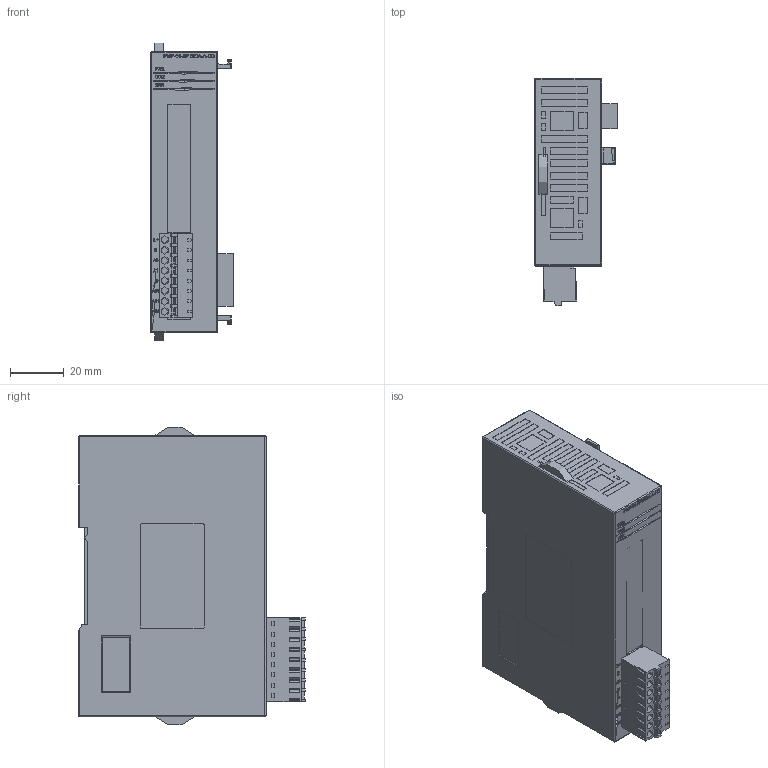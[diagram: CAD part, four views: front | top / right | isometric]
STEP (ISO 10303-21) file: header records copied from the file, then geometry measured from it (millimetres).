
FILE_DESCRIPTION(('STEP AP242'), '1');
FILE_NAME('PMP-01-2PT2DA-A-ED', '', ('UNSPECIFIED'), ('UNSPECIFIED'), 'C3D Converter', 'C3D Toolkit', '');
FILE_SCHEMA(('AP242_MANAGED_MODEL_BASED_3D_ENGINEERING_MIM_LF { 1 0 10303 442 1 1 4 }'));
Length unit declared in the file: millimetre
Products named in the file (1): PMP-01-2PT2DA-A-ED
Bounding box: 30.8 x 84.71 x 110.91 mm (x, y, z)
Surface area: 29154 mm2
Topology: 18 solids, 35 shells, 1358 faces, 3630 edges, 2422 vertices
Faces by surface type: plane 981, bspline 160, extrusion 131, cylinder 86
Full cylindrical faces by diameter (mm): 3 x8
Entity records: 67453 total; most frequent: CARTESIAN_POINT 24135, ORIENTED_EDGE 7138, DIRECTION 5353, EDGE_CURVE 3621, VECTOR 2791, LINE 2660, VERTEX_POINT 2422, EDGE_LOOP 1525
